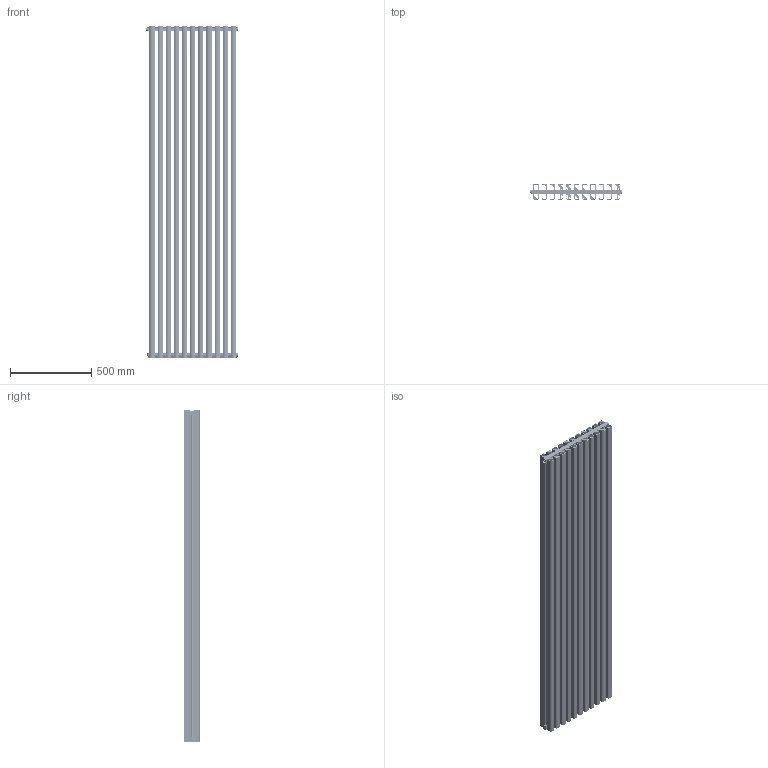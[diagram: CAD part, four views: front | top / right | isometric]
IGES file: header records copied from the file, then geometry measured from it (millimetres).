
Start section: SolidWorks IGES file using analytic representation for surfaces
Global section: file name: S:\RicercaSviluppo\01_DISEGNI\2_DISEGNI\02_ELEMENTI\39_TONALE\39_99_RICHIESTE CLIENTI\39_99_DRL\22-07-24\Tonale 2000 Iges\TONALE 2000_11.IGS; native system: SolidWorks 2024; preprocessor: SolidWorks 2024; author: massimo; date: 240722.130329; units: millimetre
Bounding box: 566.3 x 95 x 2039.3 mm (x, y, z)
Surface area: 16183949.4 mm2 (no closed solid volume)
Topology: 0 solids, 0 shells, 6561 faces, 79880 edges, 79748 vertices
Faces by surface type: revolution 3422, bspline 3139
